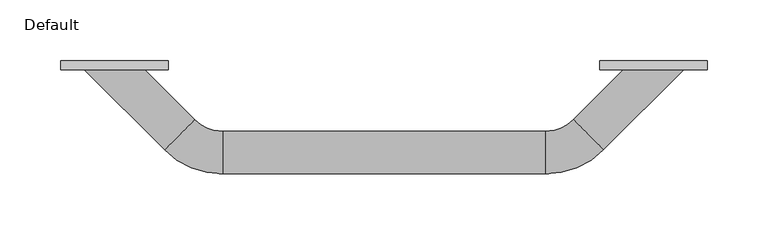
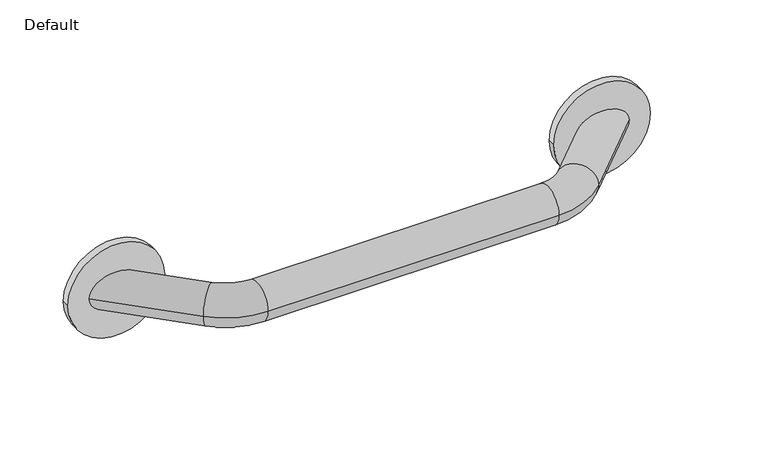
"""IFC4 building model written with IfcOpenShell, lengths in millimetres: proxy geometry, TSL_UK - TSLGR45 - Radius ADA Grab Bars - Nest - Shared : Default."""

from ifc_helpers import new_model, si_unit, point, frame, frame_2d, origin, place, context, project, spatial, circle_curve, ellipse_curve, trimmed, segment, composite_curve, outline, extrude, source, transform, mapped, element, save
from ifc_brep_helpers import plane_surface, cylinder_surface, revolved_surface, advanced_brep


def default_29ba2d10(model_context):
    return source(origin(), model_context, "Body", "SolidModel", [
        advanced_brep(
        [(-155.4721507, -48.2791677, 0.0371434), (-180.2206909, -73.0277079, -0.0915364), (-246.0483988, -7.2, -0.0915364), (-196.5513184, -7.2, 0.0371434), (-132.486733, -57.8000394, 0.0371434), (-132.486733, -92.7997606, -0.0915364), (132.486733, -57.8000394, 0.0371434), (132.486733, -92.7997606, -0.0915364), (155.4721507, -48.2791677, 0.0371434), (180.2206909, -73.0277079, -0.0915364), (196.5513184, -7.2, 0.0371434), (246.0483988, -7.2, -0.0915364)],
        [
            (0, 1, circle_curve(frame((-167.8464915, -60.6535085, 0.0), z_axis=(-0.7071067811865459, 0.7071067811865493, 0.0), x_axis=(0.7071067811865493, 0.7071067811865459, 0.0)), 17.5)),
            (1, 2),
            (2, 3, ellipse_curve(frame((-221.3, -7.2, 0.0), z_axis=(0.0, -1.0, 0.0), x_axis=(-1.0, 0.0, 0.0)), 24.7487373, 17.5)),
            (3, 0),
            (0, 4, circle_curve(frame((-132.486733, -25.29375, 0.0371434), z_axis=(0.0, 0.0, 1.0), x_axis=(-0.7071067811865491, -0.7071067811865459, 0.0)), 32.5062894)),
            (4, 5, circle_curve(frame((-132.486733, -75.3, 0.0), z_axis=(-1.0, 0.0, 0.0), x_axis=(0.0, 1.0, 0.0)), 17.5)),
            (5, 1, circle_curve(frame((-132.486733, -25.29375, -0.0915364), z_axis=(0.0, 0.0, -1.0), x_axis=(-0.7071067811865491, -0.7071067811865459, 0.0)), 67.5060106)),
            (4, 6),
            (6, 7, circle_curve(frame((132.486733, -75.3, 0.0), z_axis=(-1.0, 0.0, 0.0), x_axis=(0.0, 1.0, 0.0)), 17.5)),
            (7, 5),
            (6, 8, circle_curve(frame((132.486733, -25.29375, 0.0371434), z_axis=(0.0, 0.0, 1.0), x_axis=(0.0, -1.0, 0.0)), 32.5062894)),
            (8, 9, circle_curve(frame((167.8464915, -60.6535085, 0.0), z_axis=(-0.7071067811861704, -0.7071067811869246, 0.0), x_axis=(-0.7071067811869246, 0.7071067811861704, 0.0)), 17.5)),
            (9, 7, circle_curve(frame((132.486733, -25.29375, -0.0915364), z_axis=(0.0, 0.0, -1.0), x_axis=(0.0, -1.0, 0.0)), 67.5060106)),
            (8, 10),
            (10, 11, ellipse_curve(frame((221.3, -7.2, 0.0), z_axis=(0.0, -1.0, 0.0), x_axis=(-1.0, 0.0, 0.0)), 24.7487373, 17.5)),
            (11, 9),
            (2, 3, ellipse_curve(frame((-221.3, -7.2, 0.0), z_axis=(0.0, 1.0, 0.0), x_axis=(-1.0, 0.0, 0.0)), 24.7487373, 17.5)),
            (10, 11, ellipse_curve(frame((221.3, -7.2, 0.0), z_axis=(0.0, 1.0, 0.0), x_axis=(-1.0, 0.0, 0.0)), 24.7487373, 17.5)),
            (1, 0, circle_curve(frame((-167.8464915, -60.6535085, 0.0), z_axis=(-0.7071067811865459, 0.7071067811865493, 0.0), x_axis=(0.7071067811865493, 0.7071067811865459, 0.0)), 17.5)),
            (5, 4, circle_curve(frame((-132.486733, -75.3, 0.0), z_axis=(-1.0, 0.0, 0.0), x_axis=(0.0, 1.0, 0.0)), 17.5)),
            (7, 6, circle_curve(frame((132.486733, -75.3, 0.0), z_axis=(-1.0, 0.0, 0.0), x_axis=(0.0, 1.0, 0.0)), 17.5)),
            (9, 8, circle_curve(frame((167.8464915, -60.6535085, 0.0), z_axis=(-0.7071067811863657, -0.7071067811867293, 0.0), x_axis=(-0.7071067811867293, 0.7071067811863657, 0.0)), 17.5)),
        ],
        [
            cylinder_surface(frame((-303.8, 75.3, 0.0), z_axis=(-0.7071067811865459, 0.7071067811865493, 0.0), x_axis=(0.7071067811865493, 0.7071067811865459, 0.0)), 17.5),
            revolved_surface(trimmed(ellipse_curve(frame((-167.8464915, -60.6535085, 0.0), z_axis=(-0.707106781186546, 0.707106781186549, 0.0), x_axis=(0.707106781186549, 0.707106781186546, 0.0)), 17.5, 17.5), [point((-155.4721507, -48.2791677, 0.0371434))], [point((-180.2206909, -73.0277079, -0.0915364))], True, "CARTESIAN"), (-132.486733, -25.29375, 0.0), (0.0, 0.0, 1.0)),
            cylinder_surface(frame((-132.486733, -75.3, 0.0), z_axis=(-1.0, 0.0, 0.0), x_axis=(0.0, 1.0, 0.0)), 17.5),
            revolved_surface(trimmed(ellipse_curve(frame((132.486733, -75.3, 0.0), z_axis=(-1.0, 0.0, 0.0), x_axis=(0.0, 1.0, 0.0)), 17.5, 17.5), [point((132.486733, -57.8000394, 0.0371434))], [point((132.486733, -92.7997606, -0.0915364))], True, "CARTESIAN"), (132.486733, -25.29375, 0.0), (0.0, 0.0, 1.0)),
            cylinder_surface(frame((167.8464915, -60.6535085, 0.0), z_axis=(-0.7071067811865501, -0.7071067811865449, 0.0), x_axis=(-0.7071067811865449, 0.7071067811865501, 0.0)), 17.5),
            plane_surface(frame((-379.1, -7.2, 44.2), z_axis=(0.0, 1.0, 0.0), x_axis=(0.0, 0.0, -1.0))),
            revolved_surface(trimmed(ellipse_curve(frame((-167.8464915, -60.6535085, 0.0), z_axis=(-0.707106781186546, 0.707106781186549, 0.0), x_axis=(0.707106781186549, 0.707106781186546, 0.0)), 17.5, 17.5), [point((-180.2206909, -73.0277079, -0.0915364))], [point((-155.4721507, -48.2791677, 0.0371434))], True, "CARTESIAN"), (-132.486733, -25.29375, 0.0), (0.0, 0.0, 1.0)),
            revolved_surface(trimmed(ellipse_curve(frame((132.486733, -75.3, 0.0), z_axis=(-1.0, 0.0, 0.0), x_axis=(0.0, 1.0, 0.0)), 17.5, 17.5), [point((132.486733, -92.7997606, -0.0915364))], [point((132.486733, -57.8000394, 0.0371434))], True, "CARTESIAN"), (132.486733, -25.29375, 0.0), (0.0, 0.0, 1.0)),
        ],
        [
            (0, [[1, 2, 3, 4]]),
            (1, [[-1, 5, 6, 7]]),
            (2, [[-6, 8, 9, 10]]),
            (3, [[-9, 11, 12, 13]]),
            (4, [[-12, 14, 15, 16]]),
            (5, [[-3, 17]]),
            (5, [[-15, 18]]),
            (0, [[19, -4, -17, -2]]),
            (6, [[-7, 20, -5, -19]]),
            (2, [[-8, -20, -10, 21]]),
            (7, [[-13, 22, -11, -21]]),
            (4, [[-22, -16, -18, -14]]),
        ],
    ),
        extrude(outline(composite_curve([segment(trimmed(circle_curve(frame_2d((0.0, 221.3)), 44.0), [point((0.0, 177.3))], [point((0.0, 265.3))], False, "CARTESIAN"), True, "CONTINUOUS"), segment(trimmed(circle_curve(frame_2d((0.0, 221.3)), 44.0), [point((0.0, 265.3))], [point((0.0, 177.3))], False, "CARTESIAN"), True, "CONTINUOUS")], self_intersect=False)), frame((0.0, -7.2, 0.0), z_axis=(0.0, 1.0, 0.0), x_axis=(0.0, 0.0, 1.0)), (0.0, 0.0, 1.0), 7.2),
        extrude(outline(composite_curve([segment(trimmed(circle_curve(frame_2d((0.0, -221.3)), 44.0), [point((0.0, -265.3))], [point((0.0, -177.3))], False, "CARTESIAN"), True, "CONTINUOUS"), segment(trimmed(circle_curve(frame_2d((0.0, -221.3)), 44.0), [point((0.0, -177.3))], [point((0.0, -265.3))], False, "CARTESIAN"), True, "CONTINUOUS")], self_intersect=False)), frame((0.0, -7.2, 0.0), z_axis=(0.0, 1.0, 0.0), x_axis=(0.0, 0.0, 1.0)), (0.0, 0.0, 1.0), 7.2),
    ])


if __name__ == "__main__":
    model = new_model("IFC4")
    model_context = context("Model", 3, world=origin())
    ifc_project = project(units=[si_unit("LENGTHUNIT", "METRE", prefix="MILLI")], contexts=[model_context])
    site = spatial("IfcSite", under=ifc_project)
    building = spatial("IfcBuilding", under=site)
    placement = place(None, origin())
    default_shape = default_29ba2d10(model_context)
    element("IfcBuildingElementProxy", 1, Name="TSL_UK - TSLGR45 - Radius ADA Grab Bars - Nest - Shared : Default", ObjectType="TSL_UK - TSLGR45 - Radius ADA Grab Bars - Nest - Shared : Default", at=placement, inside=building, context=model_context, shape_type="MappedRepresentation", body=[
        mapped(default_shape, transform((0.0, 0.0, 0.0), x_axis=(1.0, 0.0, 0.0), y_axis=(0.0, 1.0, 0.0), z_axis=(0.0, 0.0, 1.0))),
    ])
    save(model, "model.ifc")
